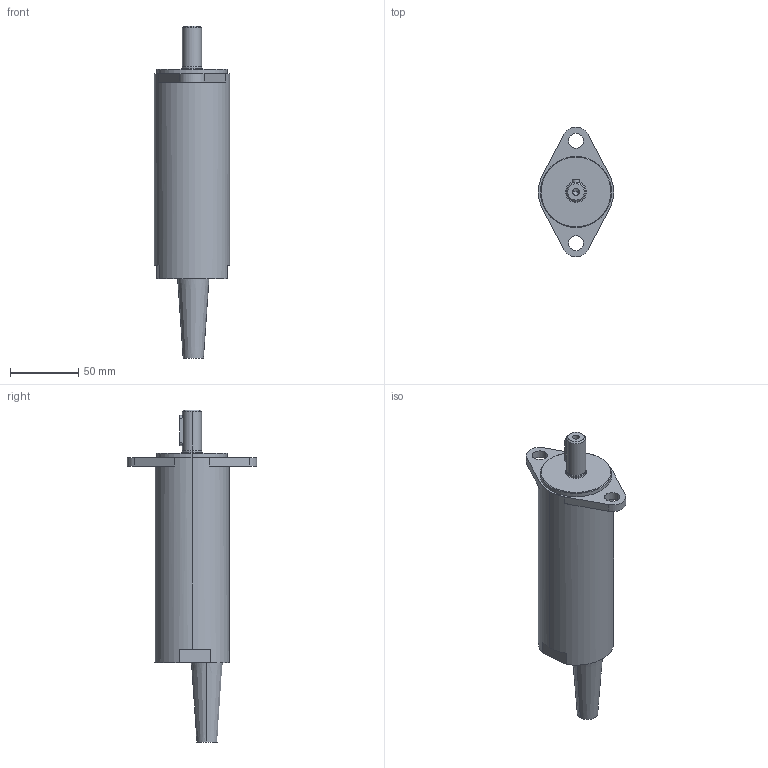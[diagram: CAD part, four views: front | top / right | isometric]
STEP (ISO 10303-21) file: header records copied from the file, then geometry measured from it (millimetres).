
FILE_DESCRIPTION (( 'STEP AP214' ), '1' );
FILE_NAME ('5M05R.step', '2017-03-29T13:42:17', ( '' ), ( '' ), 'SwSTEP 2.0', 'SolidWorks 2015', '' );
FILE_SCHEMA (( 'AUTOMOTIVE_DESIGN' ));
Length unit declared in the file: millimetre
Products named in the file (1): 5M05R
Bounding box: 55 x 94.93 x 243 mm (x, y, z)
Volume: 388114.9 mm3; surface area: 39118.2 mm2
Topology: 1 solids, 1 shells, 56 faces, 131 edges, 83 vertices
Faces by surface type: cylinder 25, plane 21, cone 8, torus 2
Entity records: 1729 total; most frequent: CARTESIAN_POINT 334, DIRECTION 305, ORIENTED_EDGE 258, EDGE_CURVE 129, AXIS2_PLACEMENT_3D 122, VERTEX_POINT 83, EDGE_LOOP 68, CIRCLE 65
